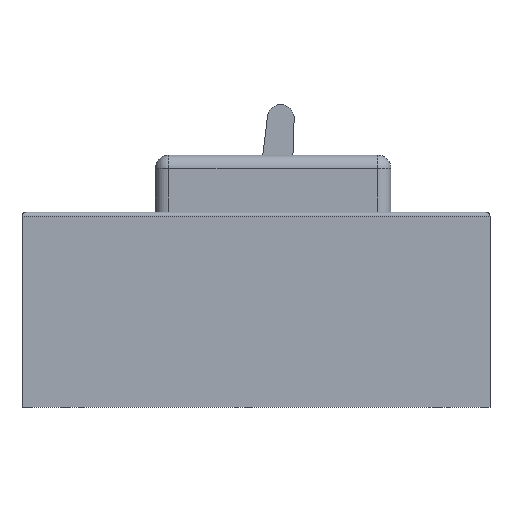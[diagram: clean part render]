
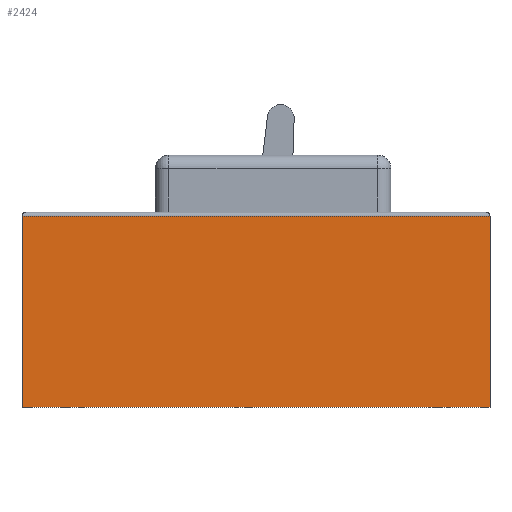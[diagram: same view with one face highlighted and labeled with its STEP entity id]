
A CAD part, left-side view. The second image highlights one B-rep face of the part: STEP entity #2424.
In plain terms, the highlighted planar face has unit normal (-1, 0, 0).
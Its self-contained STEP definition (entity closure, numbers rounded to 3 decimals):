
#115 = VECTOR ( 'NONE', #2269, 1000. ) ;
#196 = VERTEX_POINT ( 'NONE', #5621 ) ;
#416 = DIRECTION ( 'NONE',  ( 0., -1., 0. ) ) ;
#489 = VECTOR ( 'NONE', #3017, 1000. ) ;
#673 = EDGE_CURVE ( 'NONE', #4252, #2925, #3737, .T. ) ;
#688 = CARTESIAN_POINT ( 'NONE',  ( -56.25, -87.5, 0. ) ) ;
#1075 = ORIENTED_EDGE ( 'NONE', *, *, #4084, .T. ) ;
#1237 = LINE ( 'NONE', #3458, #489 ) ;
#1532 = DIRECTION ( 'NONE',  ( 1., 0., 0. ) ) ;
#1559 = FACE_OUTER_BOUND ( 'NONE', #5411, .T. ) ;
#2149 = DIRECTION ( 'NONE',  ( 0., 1., 0. ) ) ;
#2269 = DIRECTION ( 'NONE',  ( 0., 0., -1. ) ) ;
#2424 = ADVANCED_FACE ( 'NONE', ( #1559 ), #3283, .F. ) ;
#2473 = LINE ( 'NONE', #4090, #115 ) ;
#2612 = ORIENTED_EDGE ( 'NONE', *, *, #4926, .F. ) ;
#2925 = VERTEX_POINT ( 'NONE', #3637 ) ;
#3017 = DIRECTION ( 'NONE',  ( 0., 0., -1. ) ) ;
#3283 = PLANE ( 'NONE',  #4781 ) ;
#3371 = EDGE_CURVE ( 'NONE', #2925, #196, #1237, .T. ) ;
#3397 = VECTOR ( 'NONE', #2149, 1000. ) ;
#3458 = CARTESIAN_POINT ( 'NONE',  ( -56.25, 87.5, 73. ) ) ;
#3628 = ORIENTED_EDGE ( 'NONE', *, *, #673, .T. ) ;
#3637 = CARTESIAN_POINT ( 'NONE',  ( -56.25, 87.5, 71.5 ) ) ;
#3737 = LINE ( 'NONE', #5632, #3397 ) ;
#3740 = CARTESIAN_POINT ( 'NONE',  ( -56.25, -87.5, 71.5 ) ) ;
#4084 = EDGE_CURVE ( 'NONE', #196, #4254, #5443, .T. ) ;
#4090 = CARTESIAN_POINT ( 'NONE',  ( -56.25, -87.5, 73. ) ) ;
#4252 = VERTEX_POINT ( 'NONE', #3740 ) ;
#4254 = VERTEX_POINT ( 'NONE', #688 ) ;
#4647 = CARTESIAN_POINT ( 'NONE',  ( -56.25, 87.5, 73. ) ) ;
#4724 = ORIENTED_EDGE ( 'NONE', *, *, #3371, .T. ) ;
#4781 = AXIS2_PLACEMENT_3D ( 'NONE', #4647, #1532, #5090 ) ;
#4794 = CARTESIAN_POINT ( 'NONE',  ( -56.25, 87.5, 0. ) ) ;
#4926 = EDGE_CURVE ( 'NONE', #4252, #4254, #2473, .T. ) ;
#5024 = VECTOR ( 'NONE', #416, 1000. ) ;
#5090 = DIRECTION ( 'NONE',  ( 0., 1., 0. ) ) ;
#5411 = EDGE_LOOP ( 'NONE', ( #2612, #3628, #4724, #1075 ) ) ;
#5443 = LINE ( 'NONE', #4794, #5024 ) ;
#5621 = CARTESIAN_POINT ( 'NONE',  ( -56.25, 87.5, 0. ) ) ;
#5632 = CARTESIAN_POINT ( 'NONE',  ( -56.25, 87.5, 71.5 ) ) ;
